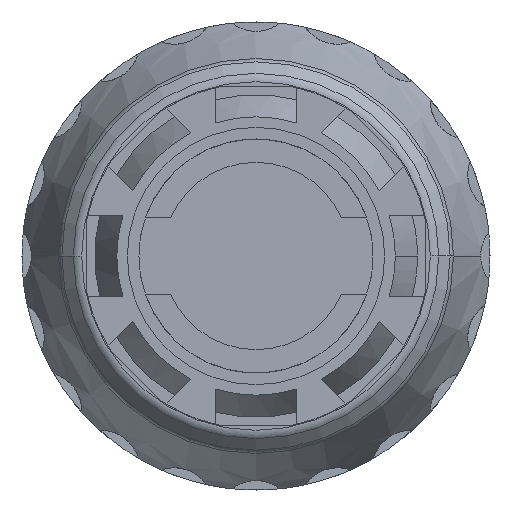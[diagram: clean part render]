
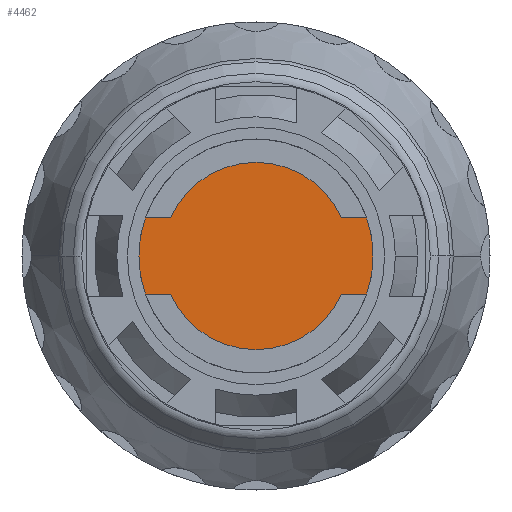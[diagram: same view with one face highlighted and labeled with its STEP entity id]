
A CAD part, front view. The second image highlights one B-rep face of the part: STEP entity #4462.
In plain terms, the highlighted planar face has unit normal (0, -1, 0).
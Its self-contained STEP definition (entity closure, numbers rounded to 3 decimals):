
#545 = FACE_OUTER_BOUND ( 'NONE', #3907, .T. ) ;
#584 = CIRCLE ( 'NONE', #1798, 10. ) ;
#627 = CIRCLE ( 'NONE', #1813, 10. ) ;
#1316 = CIRCLE ( 'NONE', #2539, 10. ) ;
#1336 = CIRCLE ( 'NONE', #2548, 10. ) ;
#1423 = LINE ( 'NONE', #5545, #1425 ) ;
#1425 = VECTOR ( 'NONE', #5543, 1000. ) ;
#1434 = CIRCLE ( 'NONE', #2570, 8. ) ;
#1435 = VECTOR ( 'NONE', #5496, 1000. ) ;
#1451 = LINE ( 'NONE', #5595, #1435 ) ;
#1452 = LINE ( 'NONE', #5584, #1454 ) ;
#1454 = VECTOR ( 'NONE', #5586, 1000. ) ;
#1459 = CIRCLE ( 'NONE', #2581, 8. ) ;
#1497 = LINE ( 'NONE', #4156, #1499 ) ;
#1499 = VECTOR ( 'NONE', #4157, 1000. ) ;
#1792 = AXIS2_PLACEMENT_3D ( 'NONE', #5180, #5185, #5186 ) ;
#1798 = AXIS2_PLACEMENT_3D ( 'NONE', #4931, #4932, #4933 ) ;
#1813 = AXIS2_PLACEMENT_3D ( 'NONE', #5029, #5034, #5035 ) ;
#2021 = EDGE_CURVE ( 'NONE', #2328, #2355, #1316, .T. ) ;
#2037 = EDGE_CURVE ( 'NONE', #2211, #2334, #1336, .T. ) ;
#2086 = EDGE_CURVE ( 'NONE', #2329, #2211, #1423, .T. ) ;
#2089 = EDGE_CURVE ( 'NONE', #2233, #2329, #1434, .T. ) ;
#2102 = EDGE_CURVE ( 'NONE', #4778, #2339, #1451, .T. ) ;
#2105 = EDGE_CURVE ( 'NONE', #2335, #2410, #1452, .T. ) ;
#2106 = EDGE_CURVE ( 'NONE', #2410, #4778, #1459, .T. ) ;
#2211 = VERTEX_POINT ( 'NONE', #5957 ) ;
#2233 = VERTEX_POINT ( 'NONE', #5966 ) ;
#2328 = VERTEX_POINT ( 'NONE', #2488 ) ;
#2329 = VERTEX_POINT ( 'NONE', #2490 ) ;
#2334 = VERTEX_POINT ( 'NONE', #5708 ) ;
#2335 = VERTEX_POINT ( 'NONE', #5700 ) ;
#2339 = VERTEX_POINT ( 'NONE', #5703 ) ;
#2355 = VERTEX_POINT ( 'NONE', #4235 ) ;
#2410 = VERTEX_POINT ( 'NONE', #4189 ) ;
#2488 = CARTESIAN_POINT ( 'NONE',  ( -10., -14.7, 0. ) ) ;
#2490 = CARTESIAN_POINT ( 'NONE',  ( 7.31, -14.7, -3.25 ) ) ;
#2506 = EDGE_CURVE ( 'NONE', #2355, #2233, #1497, .T. ) ;
#2539 = AXIS2_PLACEMENT_3D ( 'NONE', #4602, #4601, #4599 ) ;
#2548 = AXIS2_PLACEMENT_3D ( 'NONE', #5808, #5817, #5747 ) ;
#2570 = AXIS2_PLACEMENT_3D ( 'NONE', #5605, #5480, #5478 ) ;
#2581 = AXIS2_PLACEMENT_3D ( 'NONE', #5588, #5606, #5475 ) ;
#3107 = ORIENTED_EDGE ( 'NONE', *, *, #2037, .T. ) ;
#3109 = ORIENTED_EDGE ( 'NONE', *, *, #2506, .T. ) ;
#3111 = ORIENTED_EDGE ( 'NONE', *, *, #2089, .T. ) ;
#3112 = ORIENTED_EDGE ( 'NONE', *, *, #2021, .T. ) ;
#3127 = ORIENTED_EDGE ( 'NONE', *, *, #2105, .T. ) ;
#3128 = ORIENTED_EDGE ( 'NONE', *, *, #2102, .T. ) ;
#3129 = ORIENTED_EDGE ( 'NONE', *, *, #2106, .T. ) ;
#3130 = ORIENTED_EDGE ( 'NONE', *, *, #4853, .T. ) ;
#3131 = ORIENTED_EDGE ( 'NONE', *, *, #4822, .T. ) ;
#3359 = ORIENTED_EDGE ( 'NONE', *, *, #2086, .T. ) ;
#3907 = EDGE_LOOP ( 'NONE', ( #3107, #3130, #3127, #3129, #3128, #3131, #3112, #3109, #3111, #3359 ) ) ;
#4156 = CARTESIAN_POINT ( 'NONE',  ( -7.31, -14.7, -3.25 ) ) ;
#4157 = DIRECTION ( 'NONE',  ( 1., 0., 0. ) ) ;
#4189 = CARTESIAN_POINT ( 'NONE',  ( 7.31, -14.7, 3.25 ) ) ;
#4235 = CARTESIAN_POINT ( 'NONE',  ( -9.457, -14.7, -3.25 ) ) ;
#4462 = ADVANCED_FACE ( 'NONE', ( #545 ), #5182, .T. ) ;
#4599 = DIRECTION ( 'NONE',  ( 1., 0., 0. ) ) ;
#4601 = DIRECTION ( 'NONE',  ( 0., -1., 0. ) ) ;
#4602 = CARTESIAN_POINT ( 'NONE',  ( 0., -14.7, 0. ) ) ;
#4778 = VERTEX_POINT ( 'NONE', #5216 ) ;
#4822 = EDGE_CURVE ( 'NONE', #2339, #2328, #584, .T. ) ;
#4853 = EDGE_CURVE ( 'NONE', #2334, #2335, #627, .T. ) ;
#4931 = CARTESIAN_POINT ( 'NONE',  ( 0., -14.7, 0. ) ) ;
#4932 = DIRECTION ( 'NONE',  ( 0., -1., 0. ) ) ;
#4933 = DIRECTION ( 'NONE',  ( 1., 0., 0. ) ) ;
#5029 = CARTESIAN_POINT ( 'NONE',  ( 0., -14.7, 0. ) ) ;
#5034 = DIRECTION ( 'NONE',  ( 0., -1., 0. ) ) ;
#5035 = DIRECTION ( 'NONE',  ( 1., 0., 0. ) ) ;
#5180 = CARTESIAN_POINT ( 'NONE',  ( 0., -14.7, 0. ) ) ;
#5182 = PLANE ( 'NONE',  #1792 ) ;
#5185 = DIRECTION ( 'NONE',  ( 0., -1., 0. ) ) ;
#5186 = DIRECTION ( 'NONE',  ( 1., 0., 0. ) ) ;
#5216 = CARTESIAN_POINT ( 'NONE',  ( -7.31, -14.7, 3.25 ) ) ;
#5475 = DIRECTION ( 'NONE',  ( 1., 0., 0. ) ) ;
#5478 = DIRECTION ( 'NONE',  ( 1., 0., 0. ) ) ;
#5480 = DIRECTION ( 'NONE',  ( 0., -1., 0. ) ) ;
#5496 = DIRECTION ( 'NONE',  ( -1., 0., 0. ) ) ;
#5543 = DIRECTION ( 'NONE',  ( 1., 0., 0. ) ) ;
#5545 = CARTESIAN_POINT ( 'NONE',  ( 9.457, -14.7, -3.25 ) ) ;
#5584 = CARTESIAN_POINT ( 'NONE',  ( 9.457, -14.7, 3.25 ) ) ;
#5586 = DIRECTION ( 'NONE',  ( -1., 0., 0. ) ) ;
#5588 = CARTESIAN_POINT ( 'NONE',  ( 0., -14.7, 0. ) ) ;
#5595 = CARTESIAN_POINT ( 'NONE',  ( -7.31, -14.7, 3.25 ) ) ;
#5605 = CARTESIAN_POINT ( 'NONE',  ( 0., -14.7, 0. ) ) ;
#5606 = DIRECTION ( 'NONE',  ( 0., -1., 0. ) ) ;
#5700 = CARTESIAN_POINT ( 'NONE',  ( 9.457, -14.7, 3.25 ) ) ;
#5703 = CARTESIAN_POINT ( 'NONE',  ( -9.457, -14.7, 3.25 ) ) ;
#5708 = CARTESIAN_POINT ( 'NONE',  ( 10., -14.7, 0. ) ) ;
#5747 = DIRECTION ( 'NONE',  ( 1., 0., 0. ) ) ;
#5808 = CARTESIAN_POINT ( 'NONE',  ( 0., -14.7, 0. ) ) ;
#5817 = DIRECTION ( 'NONE',  ( 0., -1., 0. ) ) ;
#5957 = CARTESIAN_POINT ( 'NONE',  ( 9.457, -14.7, -3.25 ) ) ;
#5966 = CARTESIAN_POINT ( 'NONE',  ( -7.31, -14.7, -3.25 ) ) ;
